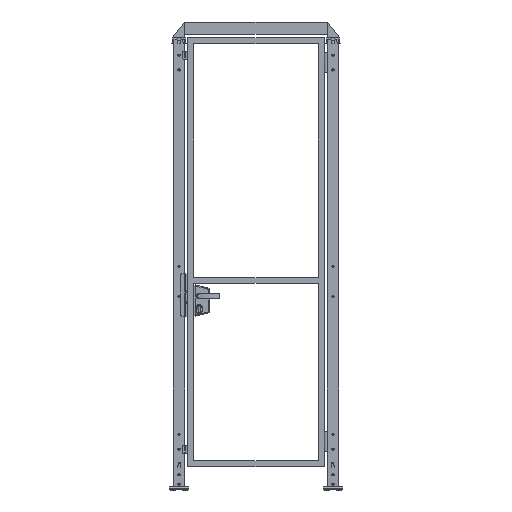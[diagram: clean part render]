
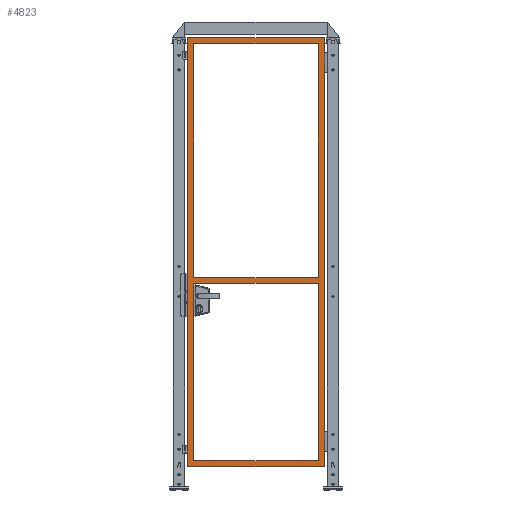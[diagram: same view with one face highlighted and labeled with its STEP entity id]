
A CAD part, top view. The second image highlights one B-rep face of the part: STEP entity #4823.
In plain terms, the highlighted planar face has unit normal (0, 0, 1).
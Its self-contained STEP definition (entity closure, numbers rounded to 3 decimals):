
#4823=ADVANCED_FACE('',(#9878,#9879,#9880),#9881,.F.);
#9878=FACE_BOUND('',#17852,.T.);
#9879=FACE_OUTER_BOUND('',#17853,.T.);
#9880=FACE_BOUND('',#17854,.T.);
#9881=PLANE('',#17855);
#17852=EDGE_LOOP('',(#32088,#32089,#32090,#32091));
#17853=EDGE_LOOP('',(#32092,#32093,#32094,#32095));
#17854=EDGE_LOOP('',(#32096,#32097,#32098,#32099));
#17855=AXIS2_PLACEMENT_3D('',#32100,#32101,#32102);
#32088=ORIENTED_EDGE('',*,*,#37969,.F.);
#32089=ORIENTED_EDGE('',*,*,#37975,.T.);
#32090=ORIENTED_EDGE('',*,*,#37997,.T.);
#32091=ORIENTED_EDGE('',*,*,#38002,.F.);
#32092=ORIENTED_EDGE('',*,*,#38013,.F.);
#32093=ORIENTED_EDGE('',*,*,#38007,.F.);
#32094=ORIENTED_EDGE('',*,*,#37977,.F.);
#32095=ORIENTED_EDGE('',*,*,#38011,.F.);
#32096=ORIENTED_EDGE('',*,*,#37999,.F.);
#32097=ORIENTED_EDGE('',*,*,#37994,.F.);
#32098=ORIENTED_EDGE('',*,*,#38005,.T.);
#32099=ORIENTED_EDGE('',*,*,#38014,.T.);
#32100=CARTESIAN_POINT('',(365.0,135.0,15.0));
#32101=DIRECTION('',(0.,0.0,-1.0));
#32102=DIRECTION('',(-1.0,0.0,0.));
#37969=EDGE_CURVE('',#46828,#46831,#46832,.T.);
#37975=EDGE_CURVE('',#46828,#46839,#46841,.T.);
#37977=EDGE_CURVE('',#46843,#46844,#46845,.T.);
#37994=EDGE_CURVE('',#46871,#46869,#46873,.T.);
#37997=EDGE_CURVE('',#46839,#46875,#46877,.T.);
#37999=EDGE_CURVE('',#46869,#46879,#46880,.T.);
#38002=EDGE_CURVE('',#46831,#46875,#46883,.T.);
#38005=EDGE_CURVE('',#46871,#46885,#46887,.T.);
#38007=EDGE_CURVE('',#46844,#46889,#46890,.T.);
#38011=EDGE_CURVE('',#46893,#46843,#46895,.T.);
#38013=EDGE_CURVE('',#46889,#46893,#46897,.T.);
#38014=EDGE_CURVE('',#46885,#46879,#46898,.T.);
#46828=VERTEX_POINT('',#60680);
#46831=VERTEX_POINT('',#60684);
#46832=LINE('',#60685,#60686);
#46839=VERTEX_POINT('',#60696);
#46841=LINE('',#60699,#60700);
#46843=VERTEX_POINT('',#60702);
#46844=VERTEX_POINT('',#60703);
#46845=LINE('',#60704,#60705);
#46869=VERTEX_POINT('',#60741);
#46871=VERTEX_POINT('',#60744);
#46873=LINE('',#60747,#60748);
#46875=VERTEX_POINT('',#60750);
#46877=LINE('',#60753,#60754);
#46879=VERTEX_POINT('',#60756);
#46880=LINE('',#60757,#60758);
#46883=LINE('',#60762,#60763);
#46885=VERTEX_POINT('',#60765);
#46887=LINE('',#60768,#60769);
#46889=VERTEX_POINT('',#60771);
#46890=LINE('',#60772,#60773);
#46893=VERTEX_POINT('',#60777);
#46895=LINE('',#60780,#60781);
#46897=LINE('',#60783,#60784);
#46898=LINE('',#60785,#60786);
#60680=CARTESIAN_POINT('',(685.0,2290.0,15.0));
#60684=CARTESIAN_POINT('',(45.,2290.0,15.0));
#60685=CARTESIAN_POINT('',(365.0,2290.0,15.0));
#60686=VECTOR('',#67067,1.0);
#60696=CARTESIAN_POINT('',(685.0,1090.0,15.0));
#60699=CARTESIAN_POINT('',(685.0,1220.0,15.0));
#60700=VECTOR('',#67072,1.0);
#60702=CARTESIAN_POINT('',(15.0,120.0,15.0));
#60703=CARTESIAN_POINT('',(15.,2320.0,15.0));
#60704=CARTESIAN_POINT('',(15.0,135.0,15.0));
#60705=VECTOR('',#67073,1.0);
#60741=CARTESIAN_POINT('',(45.,1060.0,15.0));
#60744=CARTESIAN_POINT('',(685.0,1060.0,15.0));
#60747=CARTESIAN_POINT('',(365.0,1060.0,15.0));
#60748=VECTOR('',#67088,1.0);
#60750=CARTESIAN_POINT('',(45.,1090.0,15.0));
#60753=CARTESIAN_POINT('',(365.0,1090.0,15.0));
#60754=VECTOR('',#67090,1.0);
#60756=CARTESIAN_POINT('',(45.0,150.0,15.0));
#60757=CARTESIAN_POINT('',(45.,1220.0,15.0));
#60758=VECTOR('',#67091,1.0);
#60762=CARTESIAN_POINT('',(45.,1220.0,15.0));
#60763=VECTOR('',#67093,1.0);
#60765=CARTESIAN_POINT('',(685.0,150.0,15.0));
#60768=CARTESIAN_POINT('',(685.0,1220.0,15.0));
#60769=VECTOR('',#67095,1.0);
#60771=CARTESIAN_POINT('',(715.0,2320.0,15.0));
#60772=CARTESIAN_POINT('',(30.,2320.0,15.0));
#60773=VECTOR('',#67096,1.0);
#60777=CARTESIAN_POINT('',(715.0,120.0,15.0));
#60780=CARTESIAN_POINT('',(365.0,120.0,15.0));
#60781=VECTOR('',#67099,1.0);
#60783=CARTESIAN_POINT('',(715.0,1220.0,15.0));
#60784=VECTOR('',#67100,1.0);
#60785=CARTESIAN_POINT('',(365.0,150.0,15.0));
#60786=VECTOR('',#67101,1.0);
#67067=DIRECTION('',(-1.0,0.0,0.));
#67072=DIRECTION('',(0.,-1.0,0.));
#67073=DIRECTION('',(0.0,1.0,0.0));
#67088=DIRECTION('',(-1.0,0.0,0.));
#67090=DIRECTION('',(-1.0,0.0,0.));
#67091=DIRECTION('',(0.,-1.0,0.));
#67093=DIRECTION('',(0.,-1.0,0.));
#67095=DIRECTION('',(0.,-1.0,0.));
#67096=DIRECTION('',(1.0,0.,0.));
#67099=DIRECTION('',(-1.0,0.0,0.));
#67100=DIRECTION('',(0.,-1.0,0.));
#67101=DIRECTION('',(-1.0,0.0,0.));
